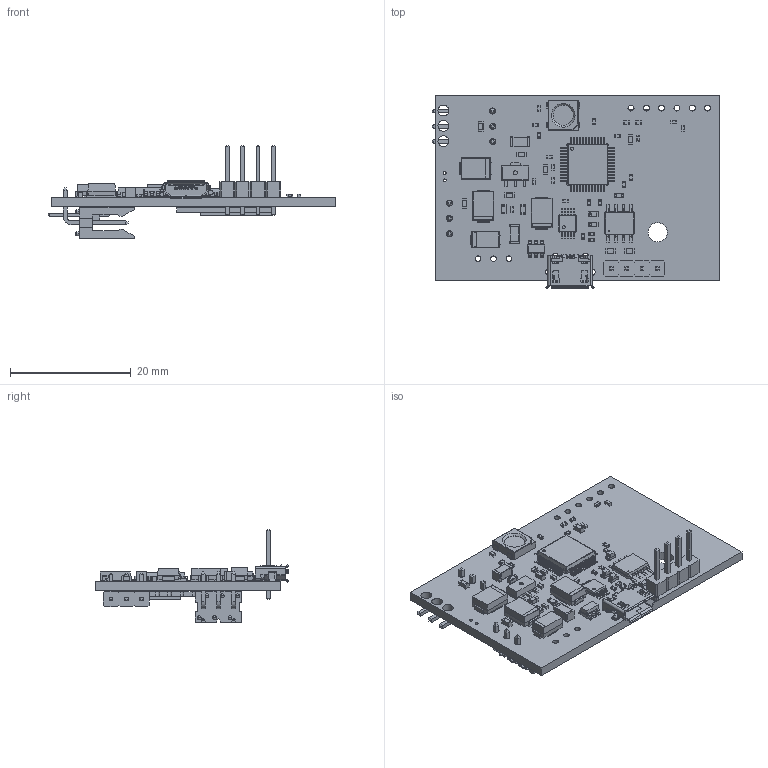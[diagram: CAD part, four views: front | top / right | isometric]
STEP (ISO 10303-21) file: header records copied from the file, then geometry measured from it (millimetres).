
FILE_DESCRIPTION(('KiCad electronic assembly'),'2;1');
FILE_NAME('fancy-node.step','2023-04-30T08:40:13',('Pcbnew'),('Kicad'), 'Open CASCADE STEP processor 7.5','KiCad to STEP converter','Unknown' );
FILE_SCHEMA(('AUTOMOTIVE_DESIGN { 1 0 10303 214 1 1 1 1 }'));
Length unit declared in the file: millimetre
Products named in the file (42): fancy-node 1; R_0402_1005Metric; SOLID; C_0603_1608Metric; C_0402_1005Metric; R_0603_1608Metric; 10118194-0001LF; LED_0603_1608Metric; MSOP-10_3x3mm_P0.5mm; LED_WS2812B_PLCC4_5.0x5.0mm_P3.2mm; C_1206_3216Metric; HTSOP-8-1EP_3.9x4.9mm_P1.27mm_EP2.4x3.2mm; D_SMA; L_0402_1005Metric; D_SMB; SOT-89-3; COMPOUND; SOT-23-6; LQFP-48_7x7mm_P0.5mm; PinHeader_1x04_P2.54mm_Vertical; PinHeader_1x03_P2.54mm_Horizontal; 78208-x03; RFM69CW_rough; _autosave-fancy-node PCB
Assembly tree (74 placements, depth 3):
  fancy-node 1
    R_0402_1005Metric  x13
      SOLID
    C_0603_1608Metric  x7
      SOLID
    C_0402_1005Metric  x9
      SOLID
    R_0603_1608Metric  x3
      SOLID
    10118194-0001LF
      SOLID
    LED_0603_1608Metric  x3
      SOLID
    MSOP-10_3x3mm_P0.5mm
      SOLID
    LED_WS2812B_PLCC4_5.0x5.0mm_P3.2mm
      SOLID
    C_1206_3216Metric  x2
      SOLID
    HTSOP-8-1EP_3.9x4.9mm_P1.27mm_EP2.4x3.2mm
      SOLID
    D_SMA
      SOLID
    L_0402_1005Metric
      SOLID
    D_SMB  x3
      SOLID
    SOT-89-3
      COMPOUND
    SOT-23-6
      SOLID
    LQFP-48_7x7mm_P0.5mm
      SOLID
    PinHeader_1x04_P2.54mm_Vertical
      SOLID
    PinHeader_1x03_P2.54mm_Horizontal
      SOLID
    78208-x03
      COMPOUND
    RFM69CW_rough
      COMPOUND
    _autosave-fancy-node PCB
Bounding box: 47.66 x 32.03 x 15.38 mm (x, y, z)
Volume: 3002.6 mm3; surface area: 6166.7 mm2
Topology: 58 solids, 171 shells, 3752 faces, 10253 edges, 6780 vertices
Faces by surface type: plane 2373, cylinder 1012, bspline 310, revolution 30, extrusion 10, cone 9, torus 4, sphere 4
Full cylindrical faces by diameter (mm): 0.2 x1, 0.5 x4, 0.7 x1, 0.9 x5, 1 x16, 1.2 x2, 1.8 x3, 3.2 x1, 3.333 x1
Entity records: 218649 total; most frequent: CARTESIAN_POINT 56052, DIRECTION 26958, VECTOR 18268, LINE 18258, ORIENTED_EDGE 14916, PCURVE 14916, DEFINITIONAL_REPRESENTATION 14916, EDGE_CURVE 7739
